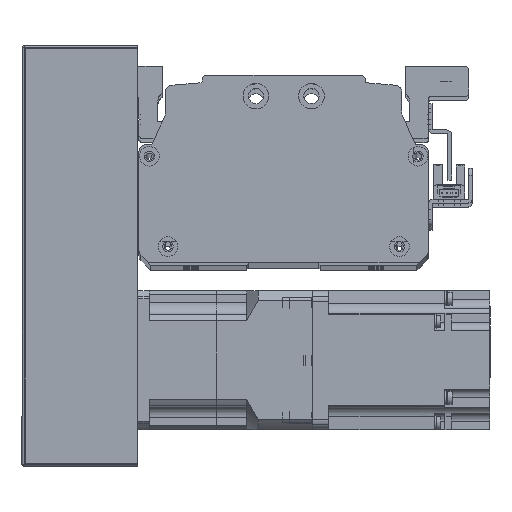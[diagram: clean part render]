
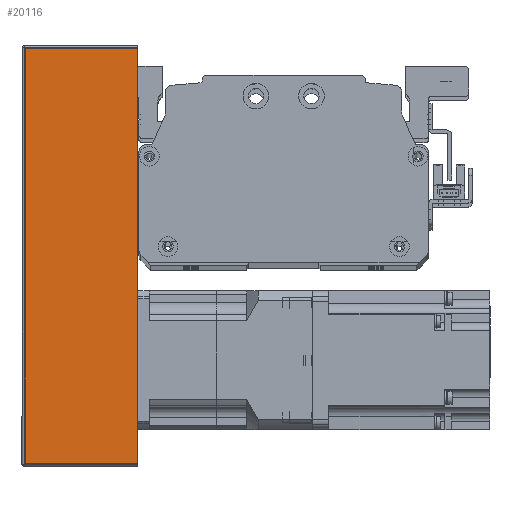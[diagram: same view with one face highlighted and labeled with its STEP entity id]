
A CAD part, top view. The second image highlights one B-rep face of the part: STEP entity #20116.
In plain terms, the highlighted planar face has unit normal (0, 0, 1) as drawn and (0, 1, 0) by its records, which use the part's own axes.
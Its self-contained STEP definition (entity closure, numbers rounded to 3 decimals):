
#609=PLANE('',#22132);
#1812=LINE('',#33169,#3436);
#1829=LINE('',#33223,#3453);
#1834=LINE('',#33247,#3458);
#1853=LINE('',#33310,#3477);
#3436=VECTOR('',#26831,10.);
#3453=VECTOR('',#26884,10.);
#3458=VECTOR('',#26921,10.);
#3477=VECTOR('',#27004,10.);
#5894=FACE_OUTER_BOUND('',#7386,.T.);
#7386=EDGE_LOOP('',(#17377,#17378,#17379,#17380));
#10275=VERTEX_POINT('',#33166);
#10276=VERTEX_POINT('',#33168);
#10294=VERTEX_POINT('',#33220);
#10295=VERTEX_POINT('',#33222);
#12738=EDGE_CURVE('',#10275,#10276,#1812,.T.);
#12766=EDGE_CURVE('',#10294,#10295,#1829,.T.);
#12780=EDGE_CURVE('',#10276,#10294,#1834,.T.);
#12811=EDGE_CURVE('',#10295,#10275,#1853,.T.);
#17377=ORIENTED_EDGE('',*,*,#12766,.F.);
#17378=ORIENTED_EDGE('',*,*,#12780,.F.);
#17379=ORIENTED_EDGE('',*,*,#12738,.F.);
#17380=ORIENTED_EDGE('',*,*,#12811,.F.);
#20116=ADVANCED_FACE('',(#5894),#609,.T.);
#22132=AXIS2_PLACEMENT_3D('',#33309,#27002,#27003);
#26831=DIRECTION('',(-1.,0.,0.));
#26884=DIRECTION('',(1.,0.,0.));
#26921=DIRECTION('',(0.,0.,-1.));
#27002=DIRECTION('center_axis',(0.,1.,0.));
#27003=DIRECTION('ref_axis',(-1.,0.,0.));
#27004=DIRECTION('',(0.,0.,1.));
#33166=CARTESIAN_POINT('',(90.,38.,25.));
#33168=CARTESIAN_POINT('',(-90.,38.,25.));
#33169=CARTESIAN_POINT('',(-91.,38.,25.));
#33220=CARTESIAN_POINT('',(-90.,38.,-24.));
#33222=CARTESIAN_POINT('',(90.,38.,-24.));
#33223=CARTESIAN_POINT('',(45.5,38.,-24.));
#33247=CARTESIAN_POINT('',(-90.,38.,0.));
#33309=CARTESIAN_POINT('Origin',(91.,38.,0.));
#33310=CARTESIAN_POINT('',(90.,38.,0.));
